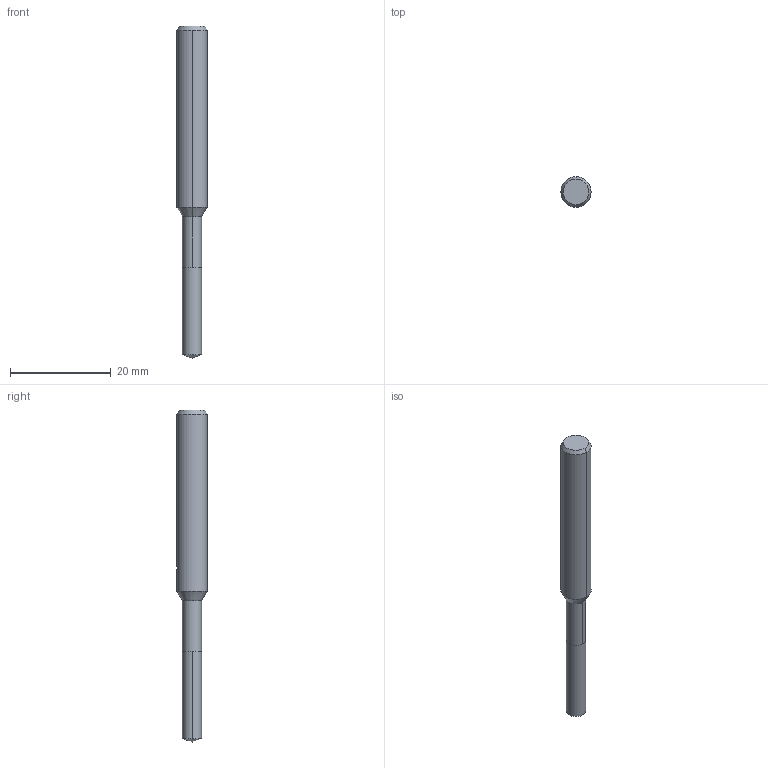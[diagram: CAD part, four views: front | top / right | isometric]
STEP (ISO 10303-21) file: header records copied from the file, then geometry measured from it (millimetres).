
FILE_DESCRIPTION(('no description'),'unknown implementation level');
FILE_NAME('solidiyjtwr6qjciB7N_qpMcV6pEQ0W8_1.STP',' ',('CIMSOURCE GmbH'),('CADClick - KiM GmbH - www.kimweb.de'),'unknown preprocess','ACIS','unknown authorization');
FILE_SCHEMA(('automotive_design'));
Length unit declared in the file: millimetre
Products named in the file (2): NOCUT; CUT
Bounding box: 6 x 6 x 66 mm (x, y, z)
Volume: 1364.3 mm3; surface area: 1096.6 mm2
Topology: 2 solids, 2 shells, 28 faces, 67 edges, 41 vertices
Faces by surface type: cylinder 14, plane 8, cone 6
Entity records: 1799 total; most frequent: CARTESIAN_POINT 356, DIRECTION 139, STYLED_ITEM 136, PRESENTATION_STYLE_ASSIGNMENT 136, COLOUR_RGB 136, ORIENTED_EDGE 130, EDGE_CURVE 65, CURVE_STYLE 65
